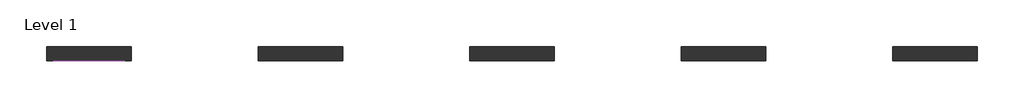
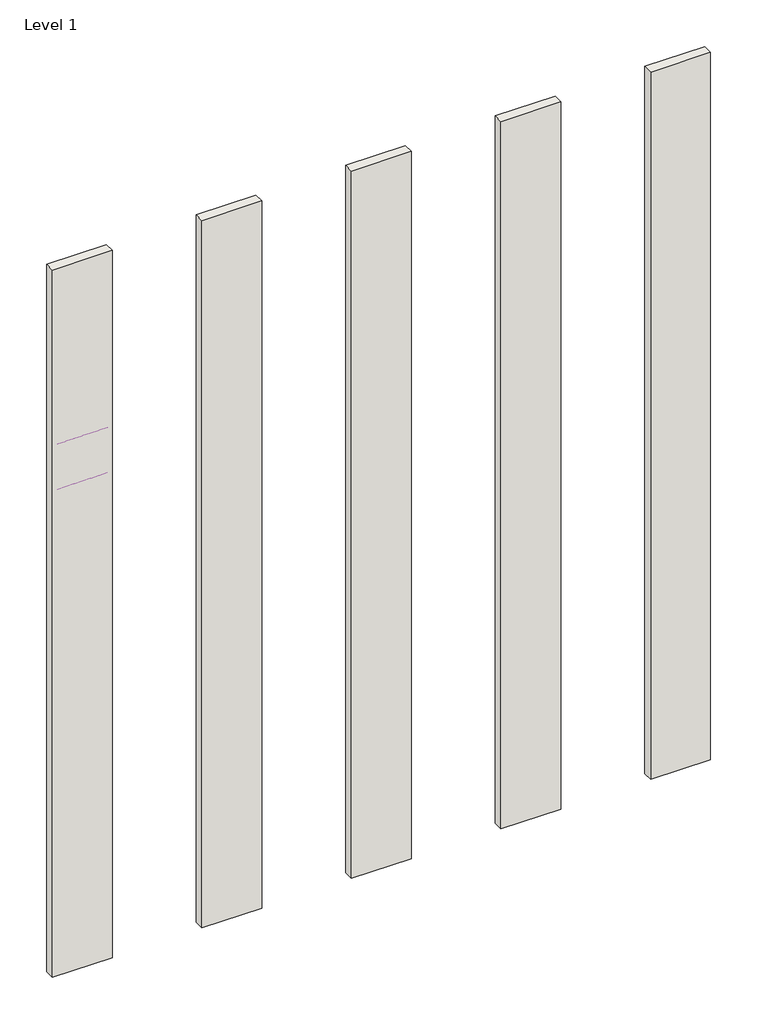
# One storey: 5 walls, 2 coverings.
"""IFC4 building model written with IfcOpenShell, lengths in millimetres."""

from ifc_helpers import new_model, si_unit, point, frame, frame_2d, origin, origin_with_axes, place, context, project, spatial, polyline, circle_curve, trimmed, segment, composite_curve, outline, extrude, element, save

model = new_model("IFC4")

# Units and contexts
model_context = context("Model", 3, world=origin())
ifc_project = project(units=[si_unit("LENGTHUNIT", "METRE", prefix="MILLI")], contexts=[model_context])

# Site, building, storey
site = spatial("IfcSite", under=ifc_project)
building = spatial("IfcBuilding", under=site)
storey = spatial("IfcBuildingStorey", under=building, Name="Level 1", Elevation=0.0)

# Coverings
placement = place(None, origin())
element("IfcCovering", 1, ObjectType="REVIGRES-PINE_WOOD-RB-8x120-MATT_RECT", at=placement, inside=storey, context=model_context, shape_type="SweptSolid", body=[
    extrude(outline(composite_curve([segment(polyline([(-6973.1153225, 10320.0), (-6982.9153225, 10320.0), (-6982.9153225, 10390.2)]), True, "CONTINUOUS"), segment(trimmed(circle_curve(frame_2d((-6973.1153225, 10390.2)), 9.8), [point((-6982.9153225, 10390.2))], [point((-6973.1153225, 10400.0))], False, "CARTESIAN"), True, "CONTINUOUS"), segment(polyline([(-6973.1153225, 10400.0), (-6973.1153225, 10320.0)]), True, "CONTINUOUS")], self_intersect=False)), frame((6292.0023157, 0.0, 0.0), z_axis=(1.0, 0.0, 0.0), x_axis=(0.0, 1.0, 0.0)), (0.0, 0.0, 1.0), 1000.0),
])
element("IfcCovering", 2, ObjectType="REVIGRES-PINE_WOOD-RB-8x59.2-MATT_RECT", at=placement, inside=storey, context=model_context, shape_type="SweptSolid", body=[
    extrude(outline(composite_curve([segment(polyline([(-6973.1153225, 11280.0), (-6981.6153225, 11280.0), (-6981.6153225, 11351.5)]), True, "CONTINUOUS"), segment(trimmed(circle_curve(frame_2d((-6973.1153225, 11351.5)), 8.5), [point((-6981.6153225, 11351.5))], [point((-6973.1153225, 11360.0))], False, "CARTESIAN"), True, "CONTINUOUS"), segment(polyline([(-6973.1153225, 11360.0), (-6973.1153225, 11280.0)]), True, "CONTINUOUS")], self_intersect=False)), frame((6292.0023157, 0.0, 0.0), z_axis=(1.0, 0.0, 0.0), x_axis=(0.0, 1.0, 0.0)), (0.0, 0.0, 1.0), 1000.0),
])

# Walls
element("IfcWall", 3, ObjectType="Wall 1", at=placement, inside=storey, context=model_context, shape_type="SweptSolid", body=[
    extrude(outline(polyline([(7392.0023157, -6973.1153225), (6192.0023157, -6973.1153225), (6192.0023157, -6773.1153225), (7392.0023157, -6773.1153225), (7392.0023157, -6973.1153225)])), origin_with_axes(), (0.0, 0.0, 1.0), 15000.0),
])
element("IfcWall", 4, ObjectType="Wall 1", at=placement, inside=storey, context=model_context, shape_type="SweptSolid", body=[
    extrude(outline(polyline([(10392.0023157, -6973.1153225), (9192.0023157, -6973.1153225), (9192.0023157, -6773.1153225), (10392.0023157, -6773.1153225), (10392.0023157, -6973.1153225)])), origin_with_axes(), (0.0, 0.0, 1.0), 15000.0),
])
element("IfcWall", 5, ObjectType="Wall 1", at=placement, inside=storey, context=model_context, shape_type="SweptSolid", body=[
    extrude(outline(polyline([(13392.0023157, -6973.1153225), (12192.0023157, -6973.1153225), (12192.0023157, -6773.1153225), (13392.0023157, -6773.1153225), (13392.0023157, -6973.1153225)])), origin_with_axes(), (0.0, 0.0, 1.0), 15000.0),
])
element("IfcWall", 6, ObjectType="Wall 1", at=placement, inside=storey, context=model_context, shape_type="SweptSolid", body=[
    extrude(outline(polyline([(16392.0023157, -6973.1153225), (15192.0023157, -6973.1153225), (15192.0023157, -6773.1153225), (16392.0023157, -6773.1153225), (16392.0023157, -6973.1153225)])), origin_with_axes(), (0.0, 0.0, 1.0), 15000.0),
])
element("IfcWall", 7, ObjectType="Wall 1", at=placement, inside=storey, context=model_context, shape_type="SweptSolid", body=[
    extrude(outline(polyline([(19392.0023157, -6973.1153225), (18192.0023157, -6973.1153225), (18192.0023157, -6773.1153225), (19392.0023157, -6773.1153225), (19392.0023157, -6973.1153225)])), origin_with_axes(), (0.0, 0.0, 1.0), 15000.0),
])

save(model, "model.ifc")
